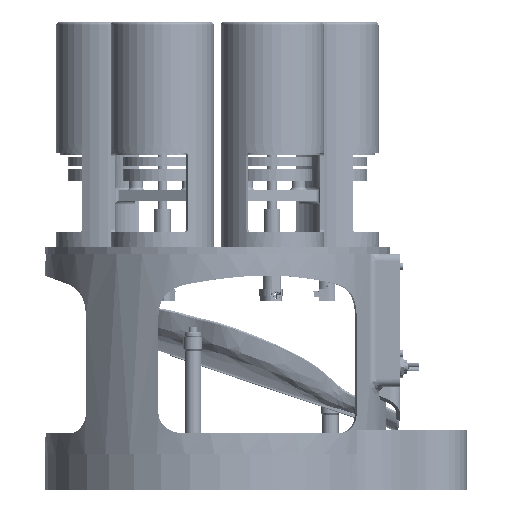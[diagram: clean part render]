
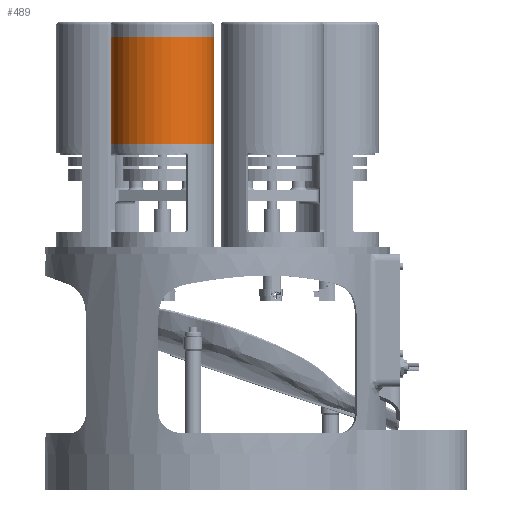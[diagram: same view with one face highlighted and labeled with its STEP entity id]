
A CAD part, left-side view. The second image highlights one B-rep face of the part: STEP entity #489.
In plain terms, the highlighted cylindrical face has radius 33.75 mm (diameter 67.5 mm), a full revolution.
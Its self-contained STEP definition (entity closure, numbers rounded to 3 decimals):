
#489 = ADVANCED_FACE('',(#490),#503,.T.);
#490 = FACE_BOUND('',#491,.T.);
#491 = EDGE_LOOP('',(#492,#526,#548,#575));
#492 = ORIENTED_EDGE('',*,*,#493,.F.);
#493 = EDGE_CURVE('',#494,#494,#496,.T.);
#494 = VERTEX_POINT('',#495);
#495 = CARTESIAN_POINT('',(33.75,0.,70.));
#496 = SURFACE_CURVE('',#497,(#502,#514),.PCURVE_S1.);
#497 = CIRCLE('',#498,33.75);
#498 = AXIS2_PLACEMENT_3D('',#499,#500,#501);
#499 = CARTESIAN_POINT('',(0.,0.,70.));
#500 = DIRECTION('',(0.,0.,1.));
#501 = DIRECTION('',(1.,0.,0.));
#502 = PCURVE('',#503,#508);
#503 = CYLINDRICAL_SURFACE('',#504,33.75);
#504 = AXIS2_PLACEMENT_3D('',#505,#506,#507);
#505 = CARTESIAN_POINT('',(0.,0.,70.));
#506 = DIRECTION('',(0.,0.,-1.));
#507 = DIRECTION('',(-1.,0.,0.));
#508 = DEFINITIONAL_REPRESENTATION('',(#509),#513);
#509 = LINE('',#510,#511);
#510 = CARTESIAN_POINT('',(9.425,0.));
#511 = VECTOR('',#512,1.);
#512 = DIRECTION('',(-1.,0.));
#513 = ( GEOMETRIC_REPRESENTATION_CONTEXT(2) 
PARAMETRIC_REPRESENTATION_CONTEXT() REPRESENTATION_CONTEXT('2D SPACE',''
  ) );
#514 = PCURVE('',#515,#520);
#515 = PLANE('',#516);
#516 = AXIS2_PLACEMENT_3D('',#517,#518,#519);
#517 = CARTESIAN_POINT('',(0.,0.,70.));
#518 = DIRECTION('',(0.,0.,1.));
#519 = DIRECTION('',(1.,0.,-0.));
#520 = DEFINITIONAL_REPRESENTATION('',(#521),#525);
#521 = CIRCLE('',#522,33.75);
#522 = AXIS2_PLACEMENT_2D('',#523,#524);
#523 = CARTESIAN_POINT('',(0.,0.));
#524 = DIRECTION('',(1.,0.));
#525 = ( GEOMETRIC_REPRESENTATION_CONTEXT(2) 
PARAMETRIC_REPRESENTATION_CONTEXT() REPRESENTATION_CONTEXT('2D SPACE',''
  ) );
#526 = ORIENTED_EDGE('',*,*,#527,.T.);
#527 = EDGE_CURVE('',#494,#528,#530,.T.);
#528 = VERTEX_POINT('',#529);
#529 = CARTESIAN_POINT('',(33.75,0.,0.));
#530 = SEAM_CURVE('',#531,(#534,#541),.PCURVE_S1.);
#531 = B_SPLINE_CURVE_WITH_KNOTS('',1,(#532,#533),.UNSPECIFIED.,.F.,.F.,
  (2,2),(0.,70.),.PIECEWISE_BEZIER_KNOTS.);
#532 = CARTESIAN_POINT('',(33.75,0.,70.));
#533 = CARTESIAN_POINT('',(33.75,0.,0.));
#534 = PCURVE('',#503,#535);
#535 = DEFINITIONAL_REPRESENTATION('',(#536),#540);
#536 = LINE('',#537,#538);
#537 = CARTESIAN_POINT('',(9.425,0.));
#538 = VECTOR('',#539,1.);
#539 = DIRECTION('',(0.,1.));
#540 = ( GEOMETRIC_REPRESENTATION_CONTEXT(2) 
PARAMETRIC_REPRESENTATION_CONTEXT() REPRESENTATION_CONTEXT('2D SPACE',''
  ) );
#541 = PCURVE('',#503,#542);
#542 = DEFINITIONAL_REPRESENTATION('',(#543),#547);
#543 = LINE('',#544,#545);
#544 = CARTESIAN_POINT('',(3.142,0.));
#545 = VECTOR('',#546,1.);
#546 = DIRECTION('',(0.,1.));
#547 = ( GEOMETRIC_REPRESENTATION_CONTEXT(2) 
PARAMETRIC_REPRESENTATION_CONTEXT() REPRESENTATION_CONTEXT('2D SPACE',''
  ) );
#548 = ORIENTED_EDGE('',*,*,#549,.T.);
#549 = EDGE_CURVE('',#528,#528,#550,.T.);
#550 = SURFACE_CURVE('',#551,(#556,#563),.PCURVE_S1.);
#551 = CIRCLE('',#552,33.75);
#552 = AXIS2_PLACEMENT_3D('',#553,#554,#555);
#553 = CARTESIAN_POINT('',(0.,0.,0.));
#554 = DIRECTION('',(0.,0.,1.));
#555 = DIRECTION('',(1.,0.,0.));
#556 = PCURVE('',#503,#557);
#557 = DEFINITIONAL_REPRESENTATION('',(#558),#562);
#558 = LINE('',#559,#560);
#559 = CARTESIAN_POINT('',(9.425,70.));
#560 = VECTOR('',#561,1.);
#561 = DIRECTION('',(-1.,0.));
#562 = ( GEOMETRIC_REPRESENTATION_CONTEXT(2) 
PARAMETRIC_REPRESENTATION_CONTEXT() REPRESENTATION_CONTEXT('2D SPACE',''
  ) );
#563 = PCURVE('',#564,#569);
#564 = PLANE('',#565);
#565 = AXIS2_PLACEMENT_3D('',#566,#567,#568);
#566 = CARTESIAN_POINT('',(0.,0.,0.));
#567 = DIRECTION('',(0.,0.,1.));
#568 = DIRECTION('',(1.,0.,-0.));
#569 = DEFINITIONAL_REPRESENTATION('',(#570),#574);
#570 = CIRCLE('',#571,33.75);
#571 = AXIS2_PLACEMENT_2D('',#572,#573);
#572 = CARTESIAN_POINT('',(0.,0.));
#573 = DIRECTION('',(1.,0.));
#574 = ( GEOMETRIC_REPRESENTATION_CONTEXT(2) 
PARAMETRIC_REPRESENTATION_CONTEXT() REPRESENTATION_CONTEXT('2D SPACE',''
  ) );
#575 = ORIENTED_EDGE('',*,*,#527,.F.);
